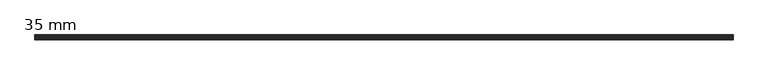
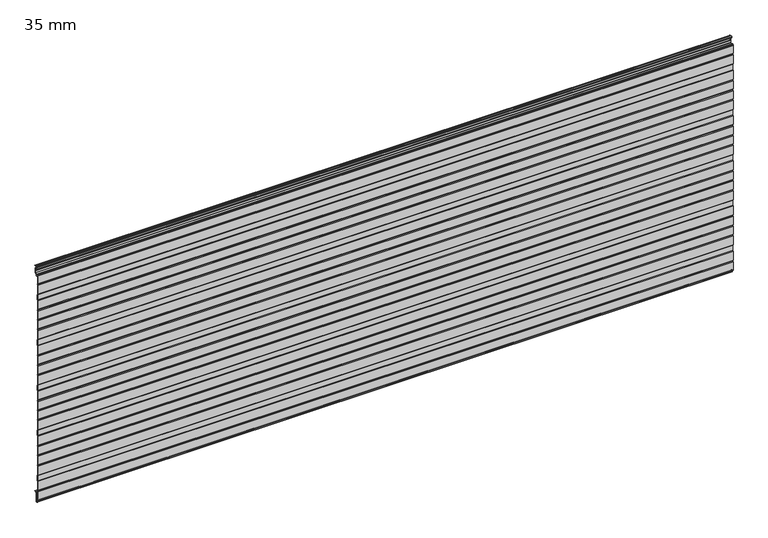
"""IFC4 building model written with IfcOpenShell, lengths in millimetres: plate geometry, HIANSA PANEL - H20.F02.002-PANELES DE FACHADA HORIZONTAL - PANEL PERFILADO - Panel de Muro Cortina : 35 mm."""

from ifc_helpers import new_model, si_unit, point, frame, frame_2d, origin, place, context, project, spatial, polyline, circle_curve, trimmed, segment, composite_curve, outline, extrude, source, transform, mapped, element, save


def plate_35_mm_0eb9a8df(model_context):
    return source(origin(), model_context, "Body", "SweptSolid", [
        extrude(outline(polyline([(-18.7836621, 1123.0800953), (-18.012002, 1123.5800953), (-13.6987386, 1123.5800953), (-12.8994266, 1123.0800953), (-18.7836621, 1123.0800953)])), frame((-1600.0, 0.0, 0.0), z_axis=(1.0, 0.0, 0.0), x_axis=(0.0, 1.0, 0.0)), (0.0, 0.0, 1.0), 3200.0),
        extrude(outline(polyline([(-18.8274011, 25.6210465), (-12.9205789, 25.6210465), (-13.7002592, 25.1210465), (-18.0111357, 25.1210465), (-18.8274011, 25.6210465)])), frame((-1600.0, 0.0, 0.0), z_axis=(1.0, 0.0, 0.0), x_axis=(0.0, 1.0, 0.0)), (0.0, 0.0, 1.0), 3200.0),
        extrude(outline(composite_curve([segment(trimmed(circle_curve(frame_2d((-21.3367084, 23.0802198)), 2.54), [point((-23.8767084, 23.0802198))], [point((-21.3367084, 25.6202198))], False, "CARTESIAN"), True, "CONTINUOUS"), segment(polyline([(-21.3367084, 25.6202198), (-18.8260515, 25.6202198), (-18.0095828, 25.1200953), (-21.336632, 25.1202198)]), True, "CONTINUOUS"), segment(trimmed(circle_curve(frame_2d((-21.3367084, 23.0802198)), 2.04), [point((-21.336632, 25.1202198))], [point((-23.3767084, 23.0802198))], True, "CARTESIAN"), True, "CONTINUOUS"), segment(polyline([(-23.3767084, 23.0802198), (-23.3767084, -18.7009512)]), True, "CONTINUOUS"), segment(trimmed(circle_curve(frame_2d((-24.3767084, -18.7009512)), 1.0), [point((-23.3767084, -18.7009512))], [point((-24.3767084, -19.7009512))], False, "CARTESIAN"), True, "CONTINUOUS"), segment(polyline([(-24.3767084, -19.7009512), (-28.1267084, -19.7009512)]), True, "CONTINUOUS"), segment(trimmed(circle_curve(frame_2d((-28.1267084, -18.7009512)), 1.0), [point((-28.1267084, -19.7009512))], [point((-29.1267084, -18.7009512))], False, "CARTESIAN"), True, "CONTINUOUS"), segment(polyline([(-29.1267084, -18.7009512), (-29.1267084, -10.5354413)]), True, "CONTINUOUS"), segment(trimmed(circle_curve(frame_2d((-30.1267084, -10.5354413)), 1.0), [point((-29.1267084, -10.5354413))], [point((-30.1267084, -9.5354413))], True, "CARTESIAN"), True, "CONTINUOUS"), segment(polyline([(-30.1267084, -9.5354413), (-32.5159365, -9.5354413)]), True, "CONTINUOUS"), segment(trimmed(circle_curve(frame_2d((-32.5159365, -7.6351946)), 1.9002467), [point((-32.5159365, -9.5354413))], [point((-34.3594466, -8.0960721))], False, "CARTESIAN"), True, "CONTINUOUS"), segment(polyline([(-34.3594466, -8.0960721), (-34.9990488, -5.5376633), (-34.9990488, 33.6845589), (-33.9990488, 37.6845589), (-34.9990488, 41.6845589), (-34.9990488, 84.9067811), (-33.9990488, 87.9067811), (-33.9990488, 113.0187811), (-34.9990488, 116.0187811), (-34.9990488, 159.2410033), (-33.9990488, 163.2410033), (-34.9990488, 167.2410033), (-34.9990488, 206.4632255), (-33.9990488, 210.4632255), (-34.9990488, 214.4632255), (-34.9990488, 253.6854477), (-33.9990488, 257.6854477), (-34.9990488, 261.6854477), (-34.9990488, 304.9076699), (-33.9990488, 307.9076699), (-33.9990488, 333.0196699), (-34.9990488, 336.0196699), (-34.9990488, 379.2418921), (-33.9990488, 383.2418921), (-34.9990488, 387.2418921), (-34.9990488, 426.4641143), (-33.9990488, 430.4641143), (-34.9990488, 434.4641143), (-34.9990488, 473.6863365), (-33.9990488, 477.6863365), (-34.9990488, 481.6863365), (-34.9990488, 524.9085587), (-33.9990488, 527.9085587), (-33.9990488, 553.0205587), (-34.9990488, 556.0205587), (-34.9990488, 599.2427809), (-33.9990488, 603.2427809), (-34.9990488, 607.2427809), (-34.9990488, 646.4650031), (-33.9990488, 650.4650031), (-34.9990488, 654.4650031), (-34.9990488, 693.6872253), (-33.9990488, 697.6872253), (-34.9990488, 701.6872253), (-34.9990488, 744.9094475), (-33.9990488, 747.9094475), (-33.9990488, 773.0214475), (-34.9990488, 776.0214475), (-34.9990488, 819.2436697), (-33.9990488, 823.2436697), (-34.9990488, 827.2436697), (-34.9990488, 866.4658919), (-33.9990488, 870.4658919), (-34.9990488, 874.4658919), (-34.9990488, 913.6881141), (-33.9990488, 917.6881141), (-34.9990488, 921.6881141), (-34.9990488, 964.9103363), (-33.9990488, 967.9103363), (-33.9990488, 993.0223363), (-34.9990488, 996.0223363), (-34.9990488, 1039.2445585), (-33.9990488, 1043.2445585), (-34.9990488, 1047.2445585), (-34.9990488, 1086.4667807), (-34.3593999, 1089.0253764)]), True, "CONTINUOUS"), segment(trimmed(circle_curve(frame_2d((-32.5161291, 1088.5645587)), 1.9), [point((-34.3593999, 1089.0253764))], [point((-32.5161291, 1090.4645587))], False, "CARTESIAN"), True, "CONTINUOUS"), segment(polyline([(-32.5161291, 1090.4645587), (-30.3767084, 1090.4645587)]), True, "CONTINUOUS"), segment(trimmed(circle_curve(frame_2d((-30.3767084, 1089.4645587)), 1.0), [point((-30.3767084, 1090.4645587))], [point((-29.3767084, 1089.4645587))], False, "CARTESIAN"), True, "CONTINUOUS"), segment(polyline([(-29.3767084, 1089.4645587), (-29.3767084, 1080.7990488)]), True, "CONTINUOUS"), segment(trimmed(circle_curve(frame_2d((-28.3767084, 1080.7990488)), 1.0), [point((-29.3767084, 1080.7990488))], [point((-28.3767084, 1079.7990488))], True, "CARTESIAN"), True, "CONTINUOUS"), segment(polyline([(-28.3767084, 1079.7990488), (-24.1267084, 1079.7990488)]), True, "CONTINUOUS"), segment(trimmed(circle_curve(frame_2d((-24.1267084, 1080.7990488)), 1.0), [point((-24.1267084, 1079.7990488))], [point((-23.1267084, 1080.7990488))], True, "CARTESIAN"), True, "CONTINUOUS"), segment(polyline([(-23.1267084, 1080.7990488), (-23.1267084, 1082.4003519)]), True, "CONTINUOUS"), segment(trimmed(circle_curve(frame_2d((-21.1267084, 1082.4003519)), 2.0), [point((-23.1267084, 1082.4003519))], [point((-22.2738613, 1084.038656))], False, "CARTESIAN"), True, "CONTINUOUS"), segment(polyline([(-22.2738613, 1084.038656), (-16.2163437, 1088.2801754)]), True, "CONTINUOUS"), segment(trimmed(circle_curve(frame_2d((-17.0767084, 1089.5089035)), 1.5), [point((-16.2163437, 1088.2801754))], [point((-15.5767084, 1089.5089035))], True, "CARTESIAN"), True, "CONTINUOUS"), segment(polyline([(-15.5767084, 1089.5089035), (-15.5767084, 1098.7402031), (-14.6767084, 1100.2990488), (-15.5767084, 1101.8578945), (-15.5767084, 1111.0891941)]), True, "CONTINUOUS"), segment(trimmed(circle_curve(frame_2d((-17.0767084, 1111.0891941)), 1.5), [point((-15.5767084, 1111.0891941))], [point((-16.2163437, 1112.3179221))], True, "CARTESIAN"), True, "CONTINUOUS"), segment(polyline([(-16.2163437, 1112.3179221), (-22.2738613, 1116.5594416)]), True, "CONTINUOUS"), segment(trimmed(circle_curve(frame_2d((-21.1267084, 1118.1977457)), 2.0), [point((-22.2738613, 1116.5594416))], [point((-23.1267084, 1118.1977457))], False, "CARTESIAN"), True, "CONTINUOUS"), segment(polyline([(-23.1267084, 1118.1977457), (-23.1267084, 1121.5800953)]), True, "CONTINUOUS"), segment(trimmed(circle_curve(frame_2d((-21.1267084, 1121.5800953)), 2.0), [point((-23.1267084, 1121.5800953))], [point((-21.1267084, 1123.5800953))], False, "CARTESIAN"), True, "CONTINUOUS"), segment(polyline([(-21.1267084, 1123.5800953), (-18.0095828, 1123.5800953), (-18.7812429, 1123.0800953), (-21.1267084, 1123.0800953)]), True, "CONTINUOUS"), segment(trimmed(circle_curve(frame_2d((-21.1267084, 1121.5800953)), 1.5), [point((-21.1267084, 1123.0800953))], [point((-22.6267084, 1121.5800953))], True, "CARTESIAN"), True, "CONTINUOUS"), segment(polyline([(-22.6267084, 1121.5800953), (-22.6267084, 1118.1977457)]), True, "CONTINUOUS"), segment(trimmed(circle_curve(frame_2d((-21.1267084, 1118.1977457)), 1.5), [point((-22.6267084, 1118.1977457))], [point((-21.987073, 1116.9690176))], True, "CARTESIAN"), True, "CONTINUOUS"), segment(polyline([(-21.987073, 1116.9690176), (-15.9295555, 1112.7274982)]), True, "CONTINUOUS"), segment(trimmed(circle_curve(frame_2d((-17.0767084, 1111.0891941)), 2.0), [point((-15.9295555, 1112.7274982))], [point((-15.0767084, 1111.0891941))], False, "CARTESIAN"), True, "CONTINUOUS"), segment(polyline([(-15.0767084, 1111.0891941), (-15.0767084, 1101.9918691), (-14.3880333, 1100.7990488)]), True, "CONTINUOUS"), segment(trimmed(circle_curve(frame_2d((-15.2540587, 1100.2990488)), 1.0), [point((-14.3880333, 1100.7990488))], [point((-14.3880333, 1099.7990488))], False, "CARTESIAN"), True, "CONTINUOUS"), segment(polyline([(-14.3880333, 1099.7990488), (-15.0767084, 1098.6062285), (-15.0767084, 1089.5089035)]), True, "CONTINUOUS"), segment(trimmed(circle_curve(frame_2d((-17.0767084, 1089.5089035)), 2.0), [point((-15.0767084, 1089.5089035))], [point((-15.9295555, 1087.8705994))], False, "CARTESIAN"), True, "CONTINUOUS"), segment(polyline([(-15.9295555, 1087.8705994), (-21.987073, 1083.62908)]), True, "CONTINUOUS"), segment(trimmed(circle_curve(frame_2d((-21.1267084, 1082.4003519)), 1.5), [point((-21.987073, 1083.62908))], [point((-22.6267084, 1082.4003519))], True, "CARTESIAN"), True, "CONTINUOUS"), segment(polyline([(-22.6267084, 1082.4003519), (-22.6267084, 1080.7990488)]), True, "CONTINUOUS"), segment(trimmed(circle_curve(frame_2d((-24.1267084, 1080.7990488)), 1.5), [point((-22.6267084, 1080.7990488))], [point((-24.1267084, 1079.2990488))], False, "CARTESIAN"), True, "CONTINUOUS"), segment(polyline([(-24.1267084, 1079.2990488), (-28.3767084, 1079.2990488)]), True, "CONTINUOUS"), segment(trimmed(circle_curve(frame_2d((-28.3767084, 1080.7990488)), 1.5), [point((-28.3767084, 1079.2990488))], [point((-29.8767084, 1080.7990488))], False, "CARTESIAN"), True, "CONTINUOUS"), segment(polyline([(-29.8767084, 1080.7990488), (-29.8767084, 1089.9645587), (-32.5161291, 1089.9645587)]), True, "CONTINUOUS"), segment(trimmed(circle_curve(frame_2d((-32.5161291, 1088.5645587)), 1.4), [point((-32.5161291, 1089.9645587))], [point((-33.8743286, 1088.9041086))], True, "CARTESIAN"), True, "CONTINUOUS"), segment(polyline([(-33.8743286, 1088.9041086), (-34.4990488, 1086.4052279), (-34.4990488, 1047.3061113), (-33.4836606, 1043.2445585), (-34.4990488, 1039.1830057), (-34.4990488, 996.1034751), (-33.4990488, 993.1034751), (-33.4990488, 967.8291975), (-34.4990488, 964.8291975), (-34.4990488, 921.7496669), (-33.4836606, 917.6881141), (-34.4990488, 913.6265613), (-34.4990488, 874.5274447), (-33.4836606, 870.4658919), (-34.4990488, 866.4043391), (-34.4990488, 827.3052225), (-33.4836606, 823.2436697), (-34.4990488, 819.1821169), (-34.4990488, 776.1025863), (-33.4990488, 773.1025863), (-33.4990488, 747.8283087), (-34.4990488, 744.8283087), (-34.4990488, 701.7487781), (-33.4836606, 697.6872253), (-34.4990488, 693.6256725), (-34.4990488, 654.5265559), (-33.4836606, 650.4650031), (-34.4990488, 646.4034503), (-34.4990488, 607.3043337), (-33.4836606, 603.2427809), (-34.4990488, 599.1812281), (-34.4990488, 556.1016975), (-33.4990488, 553.1016975), (-33.4990488, 527.8274199), (-34.4990488, 524.8274199), (-34.4990488, 481.7478893), (-33.4836606, 477.6863365), (-34.4990488, 473.6247837), (-34.4990488, 434.5256671), (-33.4836606, 430.4641143), (-34.4990488, 426.4025615), (-34.4990488, 387.3034449), (-33.4836606, 383.2418921), (-34.4990488, 379.1803393), (-34.4990488, 336.1008087), (-33.4990488, 333.1008087), (-33.4990488, 307.8265311), (-34.4990488, 304.8265311), (-34.4990488, 261.7470005), (-33.4836606, 257.6854477), (-34.4990488, 253.6238949), (-34.4990488, 214.5247783), (-33.4836606, 210.4632255), (-34.4990488, 206.4016727), (-34.4990488, 167.3025561), (-33.4836606, 163.2410033), (-34.4990488, 159.1794505), (-34.4990488, 116.0999199), (-33.4990488, 113.0999199), (-33.4990488, 87.8256423), (-34.4990488, 84.8256423), (-34.4990488, 41.7461117), (-33.4836606, 37.6845589), (-34.4990488, 33.6230061), (-34.4990488, -5.4761105), (-33.8741312, -7.9757808)]), True, "CONTINUOUS"), segment(trimmed(circle_curve(frame_2d((-32.5169431, -7.6364838)), 1.3989577), [point((-33.8741312, -7.9757808))], [point((-32.5169431, -9.0354415))], True, "CARTESIAN"), True, "CONTINUOUS"), segment(polyline([(-32.5169431, -9.0354415), (-30.1267084, -9.0354413)]), True, "CONTINUOUS"), segment(trimmed(circle_curve(frame_2d((-30.1267084, -10.5354413)), 1.5), [point((-30.1267084, -9.0354413))], [point((-28.6267084, -10.5354413))], False, "CARTESIAN"), True, "CONTINUOUS"), segment(polyline([(-28.6267084, -10.5354413), (-28.6267084, -19.2009512), (-23.8767084, -19.2009512), (-23.8767084, 23.0802198)]), True, "CONTINUOUS")], self_intersect=False)), frame((-1600.0, 0.0, 0.0), z_axis=(1.0, 0.0, 0.0), x_axis=(0.0, 1.0, 0.0)), (0.0, 0.0, 1.0), 3200.0),
    ])


if __name__ == "__main__":
    model = new_model("IFC4")
    model_context = context("Model", 3, world=origin())
    ifc_project = project(units=[si_unit("LENGTHUNIT", "METRE", prefix="MILLI")], contexts=[model_context])
    site = spatial("IfcSite", under=ifc_project)
    building = spatial("IfcBuilding", under=site)
    placement = place(None, origin())
    plate_35_mm_shape = plate_35_mm_0eb9a8df(model_context)
    element("IfcPlate", 1, ObjectType="HIANSA PANEL - H20.F02.002-PANELES DE FACHADA HORIZONTAL - PANEL PERFILADO - Panel de Muro Cortina : 35 mm", at=placement, inside=building, context=model_context, shape_type="MappedRepresentation", body=[
        mapped(plate_35_mm_shape, transform((0.0, 0.0, 0.0), x_axis=(1.0, 0.0, 0.0), y_axis=(0.0, 1.0, 0.0), z_axis=(0.0, 0.0, 1.0))),
    ])
    save(model, "model.ifc")
